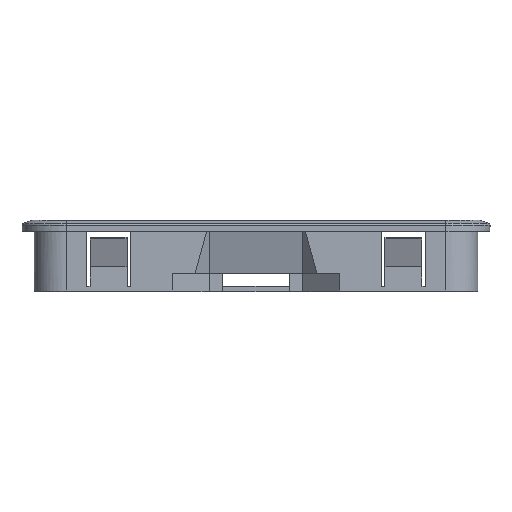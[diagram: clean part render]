
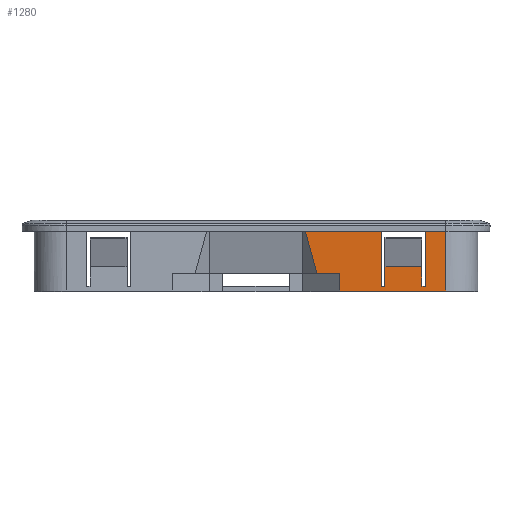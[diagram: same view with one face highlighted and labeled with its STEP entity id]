
A CAD part, left-side view. The second image highlights one B-rep face of the part: STEP entity #1280.
In plain terms, the highlighted planar face has unit normal (-1, 0, 0).
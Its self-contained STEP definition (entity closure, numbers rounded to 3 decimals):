
#79 = CARTESIAN_POINT ( 'NONE',  ( -49.2, 14.2, -18. ) ) ;
#188 = LINE ( 'NONE', #1707, #3413 ) ;
#290 = DIRECTION ( 'NONE',  ( 0., 0., 1. ) ) ;
#371 = VERTEX_POINT ( 'NONE', #5608 ) ;
#416 = DIRECTION ( 'NONE',  ( 0., 0.266, 0.964 ) ) ;
#492 = CARTESIAN_POINT ( 'NONE',  ( -49.2, 25.2, -12.6 ) ) ;
#521 = LINE ( 'NONE', #4314, #8530 ) ;
#568 = DIRECTION ( 'NONE',  ( 0., -1., 0. ) ) ;
#588 = AXIS2_PLACEMENT_3D ( 'NONE', #2007, #9498, #1308 ) ;
#959 = LINE ( 'NONE', #6284, #3322 ) ;
#1130 = LINE ( 'NONE', #6403, #1397 ) ;
#1172 = EDGE_CURVE ( 'NONE', #4563, #371, #1130, .T. ) ;
#1175 = EDGE_CURVE ( 'NONE', #4563, #4657, #1219, .T. ) ;
#1219 = LINE ( 'NONE', #6454, #9579 ) ;
#1280 = ADVANCED_FACE ( 'NONE', ( #3541 ), #6540, .F. ) ;
#1308 = DIRECTION ( 'NONE',  ( 0., 1., 0. ) ) ;
#1324 = DIRECTION ( 'NONE',  ( 0., 0., 1. ) ) ;
#1392 = CARTESIAN_POINT ( 'NONE',  ( -49.2, 26.2, -3. ) ) ;
#1397 = VECTOR ( 'NONE', #1818, 1000. ) ;
#1399 = ORIENTED_EDGE ( 'NONE', *, *, #1175, .T. ) ;
#1414 = VERTEX_POINT ( 'NONE', #79 ) ;
#1608 = DIRECTION ( 'NONE',  ( 0., 1., 0. ) ) ;
#1613 = EDGE_CURVE ( 'NONE', #6054, #8624, #521, .T. ) ;
#1707 = CARTESIAN_POINT ( 'NONE',  ( -49.2, 2.548, -18. ) ) ;
#1743 = VERTEX_POINT ( 'NONE', #8786 ) ;
#1787 = ORIENTED_EDGE ( 'NONE', *, *, #6220, .F. ) ;
#1802 = DIRECTION ( 'NONE',  ( 0., -1., 0. ) ) ;
#1818 = DIRECTION ( 'NONE',  ( 0., 1., 0. ) ) ;
#1819 = CARTESIAN_POINT ( 'NONE',  ( -49.2, 8.7, -19.25 ) ) ;
#1911 = EDGE_CURVE ( 'NONE', #3265, #8224, #3472, .T. ) ;
#1986 = VECTOR ( 'NONE', #7263, 1000. ) ;
#2007 = CARTESIAN_POINT ( 'NONE',  ( -49.2, 36.621, -18. ) ) ;
#2010 = EDGE_CURVE ( 'NONE', #371, #1743, #8072, .T. ) ;
#2153 = DIRECTION ( 'NONE',  ( 0., -1., 0. ) ) ;
#2279 = ORIENTED_EDGE ( 'NONE', *, *, #6550, .F. ) ;
#2392 = VERTEX_POINT ( 'NONE', #3830 ) ;
#2404 = CARTESIAN_POINT ( 'NONE',  ( -49.2, 8.7, -3. ) ) ;
#2598 = ORIENTED_EDGE ( 'NONE', *, *, #8271, .F. ) ;
#2617 = CARTESIAN_POINT ( 'NONE',  ( -49.2, 15.2, -18. ) ) ;
#2714 = DIRECTION ( 'NONE',  ( 0., 0., -1. ) ) ;
#2755 = LINE ( 'NONE', #2617, #9746 ) ;
#3110 = EDGE_LOOP ( 'NONE', ( #6125, #1399, #8975, #5370, #2279, #2598, #3481, #1787, #4136, #6735, #3894, #7960, #4744, #7900 ) ) ;
#3265 = VERTEX_POINT ( 'NONE', #6289 ) ;
#3322 = VECTOR ( 'NONE', #1802, 1000. ) ;
#3413 = VECTOR ( 'NONE', #9298, 1000. ) ;
#3472 = LINE ( 'NONE', #9555, #9323 ) ;
#3474 = VERTEX_POINT ( 'NONE', #5750 ) ;
#3481 = ORIENTED_EDGE ( 'NONE', *, *, #6724, .F. ) ;
#3493 = LINE ( 'NONE', #3576, #4641 ) ;
#3541 = FACE_OUTER_BOUND ( 'NONE', #3110, .T. ) ;
#3576 = CARTESIAN_POINT ( 'NONE',  ( -49.2, 36.621, -12.6 ) ) ;
#3669 = VERTEX_POINT ( 'NONE', #3719 ) ;
#3719 = CARTESIAN_POINT ( 'NONE',  ( -49.2, 15.2, -12.6 ) ) ;
#3830 = CARTESIAN_POINT ( 'NONE',  ( -49.2, 14.2, -3. ) ) ;
#3894 = ORIENTED_EDGE ( 'NONE', *, *, #7850, .F. ) ;
#3971 = CARTESIAN_POINT ( 'NONE',  ( -49.2, 25.2, -18. ) ) ;
#4136 = ORIENTED_EDGE ( 'NONE', *, *, #6519, .F. ) ;
#4314 = CARTESIAN_POINT ( 'NONE',  ( -49.2, 26.2, -18. ) ) ;
#4563 = VERTEX_POINT ( 'NONE', #1819 ) ;
#4641 = VECTOR ( 'NONE', #568, 1000. ) ;
#4657 = VERTEX_POINT ( 'NONE', #2404 ) ;
#4696 = LINE ( 'NONE', #9325, #9119 ) ;
#4744 = ORIENTED_EDGE ( 'NONE', *, *, #4921, .F. ) ;
#4749 = VERTEX_POINT ( 'NONE', #492 ) ;
#4781 = VECTOR ( 'NONE', #1324, 1000. ) ;
#4921 = EDGE_CURVE ( 'NONE', #1743, #3265, #8992, .T. ) ;
#5361 = VECTOR ( 'NONE', #5821, 1000. ) ;
#5370 = ORIENTED_EDGE ( 'NONE', *, *, #8284, .F. ) ;
#5608 = CARTESIAN_POINT ( 'NONE',  ( -49.2, 37.5, -19.25 ) ) ;
#5750 = CARTESIAN_POINT ( 'NONE',  ( -49.2, 15.2, -18. ) ) ;
#5776 = CARTESIAN_POINT ( 'NONE',  ( -49.2, 14.2, -18. ) ) ;
#5821 = DIRECTION ( 'NONE',  ( 0., 0., 1. ) ) ;
#5898 = CARTESIAN_POINT ( 'NONE',  ( -49.2, 26.2, -18. ) ) ;
#6054 = VERTEX_POINT ( 'NONE', #1392 ) ;
#6125 = ORIENTED_EDGE ( 'NONE', *, *, #1172, .F. ) ;
#6220 = EDGE_CURVE ( 'NONE', #7881, #4749, #9383, .T. ) ;
#6222 = DIRECTION ( 'NONE',  ( 0., -1., 0. ) ) ;
#6284 = CARTESIAN_POINT ( 'NONE',  ( -49.2, 36.621, -3. ) ) ;
#6289 = CARTESIAN_POINT ( 'NONE',  ( -49.2, 43.643, -14.45 ) ) ;
#6403 = CARTESIAN_POINT ( 'NONE',  ( -49.2, 36.621, -19.25 ) ) ;
#6454 = CARTESIAN_POINT ( 'NONE',  ( -49.2, 8.7, -9.75 ) ) ;
#6476 = CARTESIAN_POINT ( 'NONE',  ( -49.2, 37.5, -19.5 ) ) ;
#6519 = EDGE_CURVE ( 'NONE', #8624, #7881, #7427, .T. ) ;
#6540 = PLANE ( 'NONE',  #588 ) ;
#6550 = EDGE_CURVE ( 'NONE', #3474, #1414, #188, .T. ) ;
#6724 = EDGE_CURVE ( 'NONE', #4749, #3669, #3493, .T. ) ;
#6735 = ORIENTED_EDGE ( 'NONE', *, *, #1613, .F. ) ;
#7263 = DIRECTION ( 'NONE',  ( 0., 0., 1. ) ) ;
#7427 = LINE ( 'NONE', #8109, #8902 ) ;
#7850 = EDGE_CURVE ( 'NONE', #8224, #6054, #959, .T. ) ;
#7881 = VERTEX_POINT ( 'NONE', #3971 ) ;
#7900 = ORIENTED_EDGE ( 'NONE', *, *, #2010, .F. ) ;
#7940 = LINE ( 'NONE', #5776, #5361 ) ;
#7960 = ORIENTED_EDGE ( 'NONE', *, *, #1911, .F. ) ;
#8002 = DIRECTION ( 'NONE',  ( 0., 0., -1. ) ) ;
#8072 = LINE ( 'NONE', #6476, #4781 ) ;
#8102 = CARTESIAN_POINT ( 'NONE',  ( -49.2, 36.621, -14.45 ) ) ;
#8109 = CARTESIAN_POINT ( 'NONE',  ( -49.2, 2.548, -18. ) ) ;
#8148 = VECTOR ( 'NONE', #1608, 1000. ) ;
#8224 = VERTEX_POINT ( 'NONE', #9550 ) ;
#8271 = EDGE_CURVE ( 'NONE', #3669, #3474, #2755, .T. ) ;
#8284 = EDGE_CURVE ( 'NONE', #1414, #2392, #7940, .T. ) ;
#8530 = VECTOR ( 'NONE', #8002, 1000. ) ;
#8624 = VERTEX_POINT ( 'NONE', #5898 ) ;
#8786 = CARTESIAN_POINT ( 'NONE',  ( -49.2, 37.5, -14.45 ) ) ;
#8902 = VECTOR ( 'NONE', #2153, 1000. ) ;
#8975 = ORIENTED_EDGE ( 'NONE', *, *, #9115, .F. ) ;
#8992 = LINE ( 'NONE', #8102, #8148 ) ;
#9115 = EDGE_CURVE ( 'NONE', #2392, #4657, #4696, .T. ) ;
#9119 = VECTOR ( 'NONE', #6222, 1000. ) ;
#9298 = DIRECTION ( 'NONE',  ( 0., -1., 0. ) ) ;
#9323 = VECTOR ( 'NONE', #416, 1000. ) ;
#9325 = CARTESIAN_POINT ( 'NONE',  ( -49.2, 36.621, -3. ) ) ;
#9383 = LINE ( 'NONE', #9519, #1986 ) ;
#9498 = DIRECTION ( 'NONE',  ( 1., 0., 0. ) ) ;
#9519 = CARTESIAN_POINT ( 'NONE',  ( -49.2, 25.2, -18. ) ) ;
#9550 = CARTESIAN_POINT ( 'NONE',  ( -49.2, 46.798, -3. ) ) ;
#9555 = CARTESIAN_POINT ( 'NONE',  ( -49.2, 43.643, -14.45 ) ) ;
#9579 = VECTOR ( 'NONE', #290, 1000. ) ;
#9746 = VECTOR ( 'NONE', #2714, 1000. ) ;
